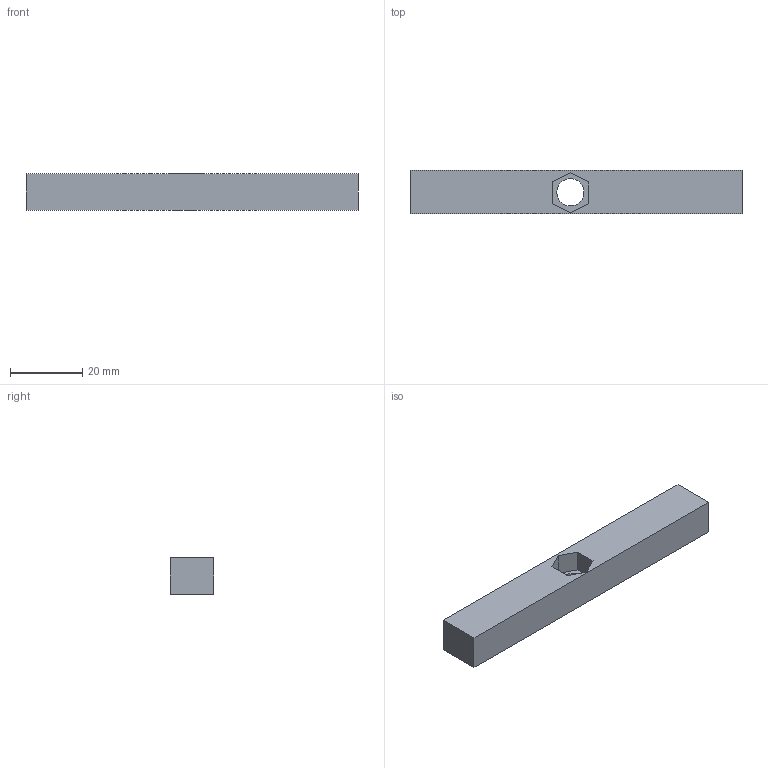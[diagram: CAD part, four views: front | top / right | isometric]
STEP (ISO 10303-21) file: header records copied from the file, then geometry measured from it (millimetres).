
FILE_DESCRIPTION(('STEP AP203'), '1');
FILE_NAME('up holder', '', ('UNSPECIFIED'), ('UNSPECIFIED'), 'ASCON STEP Converter 1.3', 'ASCON Math Kernel', '');
FILE_SCHEMA(('CONFIG_CONTROL_DESIGN'));
Length unit declared in the file: millimetre
Bounding box: 91.6 x 12 x 10 mm (x, y, z)
Volume: 10305.5 mm3; surface area: 4482.5 mm2
Topology: 1 solids, 1 shells, 14 faces, 33 edges, 22 vertices
Faces by surface type: plane 13, cylinder 1
Full cylindrical faces by diameter (mm): 7.5 x1
Entity records: 554 total; most frequent: CARTESIAN_POINT 69, DIRECTION 64, ORIENTED_EDGE 64, EDGE_CURVE 32, LINE 30, VECTOR 30, VERTEX_POINT 22, EDGE_LOOP 18
